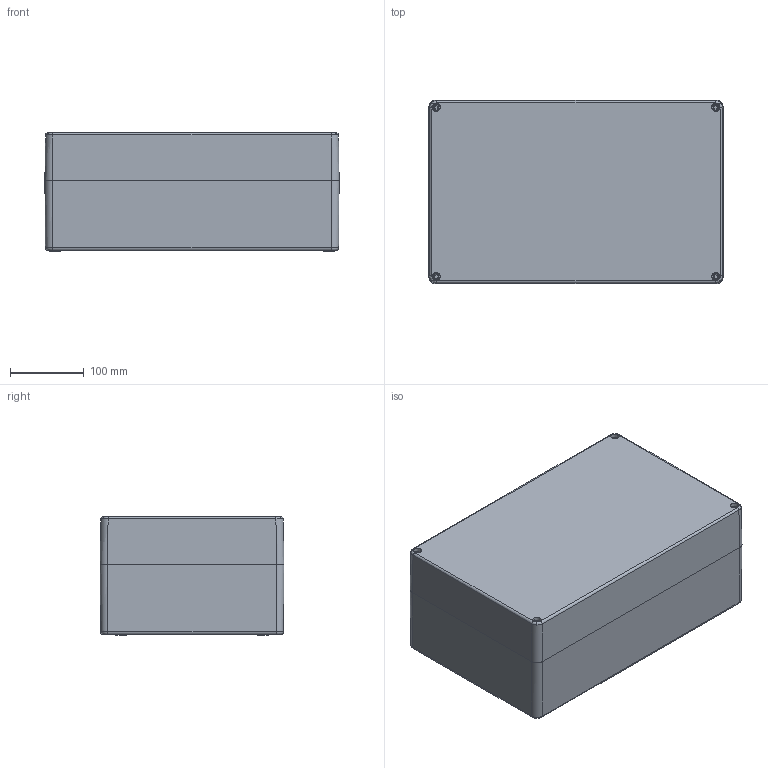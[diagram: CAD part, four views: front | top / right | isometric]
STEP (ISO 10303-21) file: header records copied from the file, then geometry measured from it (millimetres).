
FILE_DESCRIPTION (( 'STEP AP203' ), '1' );
FILE_NAME ('GRP ASSY 400250160.STEP', '2024-08-26T11:07:32', ( '' ), ( '' ), 'SwSTEP 2.0', 'SolidWorks 2018', '' );
FILE_SCHEMA (( 'CONFIG_CONTROL_DESIGN' ));
Length unit declared in the file: millimetre
Products named in the file (5): M6 SS TOP INSERT; M6 BOTTOM INSERT; GRP BASE 400250160; GRP LID 400250160; GRP ASSY 400250160
Assembly tree (12 placements, depth 2):
  GRP ASSY 400250160
    GRP BASE 400250160
    GRP LID 400250160
    M6 SS TOP INSERT  x4
    M6 BOTTOM INSERT  x6
Bounding box: 400 x 250 x 161 mm (x, y, z)
Volume: 2614412.7 mm3; surface area: 822601.1 mm2
Topology: 12 solids, 12 shells, 1219 faces, 2920 edges, 1792 vertices
Faces by surface type: plane 422, cylinder 345, bspline 244, cone 168, torus 40
Entity records: 37916 total; most frequent: CARTESIAN_POINT 18024, ORIENTED_EDGE 4248, DIRECTION 3512, EDGE_CURVE 2124, VERTEX_POINT 1312, AXIS2_PLACEMENT_3D 1258, VECTOR 996, LINE 996
